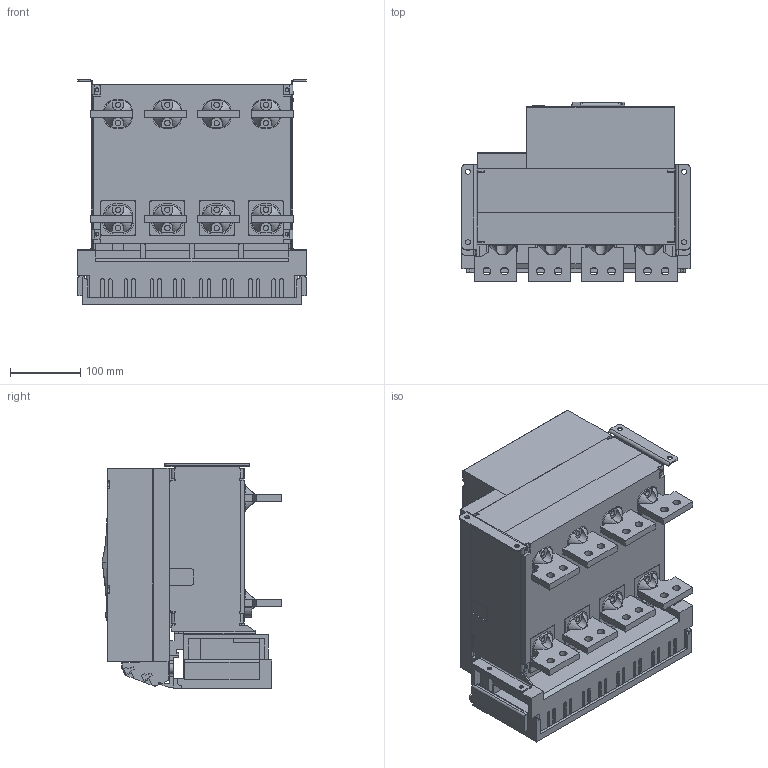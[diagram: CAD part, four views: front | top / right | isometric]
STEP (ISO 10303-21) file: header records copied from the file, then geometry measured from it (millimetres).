
FILE_DESCRIPTION((''),'2;1');
FILE_NAME('NA8G-1600-1000-F-4P-H_ASM','2019-06-03T10:00:29',('lcc'),(''),'CREO PARAMETRIC BY PTC INC, 2018020','CREO PARAMETRIC BY PTC INC, 2018020','');
FILE_SCHEMA(('CONFIG_CONTROL_DESIGN','SHAPE_APPEARANCE_LAYERS_GROUPS'));
Products named in the file (20): 1600-JIZUO-4P; 1600-DIBAN-4P; 8-050-245; 8-050-246; 8-300-162-2; 8-005-238; 8-300-163; 8-015-020; 8ZTD-064-138; 8ZTD-024-689; 8ZTD-860-511; 1600-DUANZI-CTS_ASM; 8-253-348; 8-253-349; 5-235-147; 8-253-309; 8-211-087; 8ZTD-580-187-2; 8ZTD-580-188-2; NA8G-1600-1000-F-4P-H_ASM
Assembly tree (41 placements, depth 3):
  NA8G-1600-1000-F-4P-H_ASM
    1600-JIZUO-4P
    1600-DIBAN-4P
    8-050-245
    8-050-246
    8-300-162-2
    8-005-238
    8-300-163
    8-015-020
    1600-DUANZI-CTS_ASM
      8ZTD-064-138
      8ZTD-024-689  x14
      8ZTD-860-511
    8-253-348
    8-253-349
    5-235-147
    8-253-309
    8-211-087  x4
    8ZTD-580-187-2  x4
    8ZTD-580-188-2  x4
Bounding box: 324 x 255 x 318.5 mm (x, y, z)
Volume: 8939318.1 mm3; surface area: 1652862.6 mm2
Topology: 40 solids, 59 shells, 5340 faces, 14802 edges, 9723 vertices
Faces by surface type: plane 4283, cylinder 986, cone 32, torus 18, bspline 10, sphere 10, extrusion 1
Entity records: 130778 total; most frequent: CARTESIAN_POINT 18951, ORIENTED_EDGE 17220, DIRECTION 16387, PRESENTATION_STYLE_ASSIGNMENT 9189, STYLED_ITEM 9174, CURVE_STYLE 8613, EDGE_CURVE 8613, VECTOR 7011
